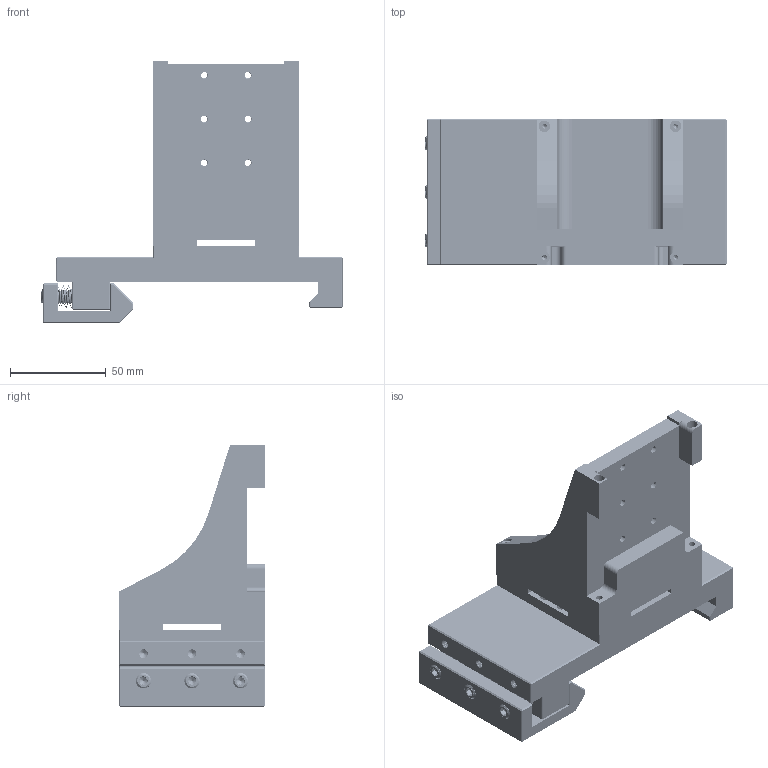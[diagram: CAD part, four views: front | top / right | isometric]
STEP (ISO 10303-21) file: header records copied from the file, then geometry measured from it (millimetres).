
FILE_DESCRIPTION((''),'2;1');
FILE_NAME('OPH95-LM3_ASM','2026-03-21T14:31:52',('R&D'),(''),'CREO PARAMETRIC BY PTC INC, 2021063','CREO PARAMETRIC BY PTC INC, 2021063','');
FILE_SCHEMA(('CONFIG_CONTROL_DESIGN'));
Products named in the file (9): M1_5X5_HS; OPH95-LM1-A5; OPH95-LM1-A1; WASTER_9X12X7; OPH95-LM1-A22; AXLE_3X6; ISO14579-M3X10-8_8; OPH95-LM3-A2; OPH95-LM3_ASM
Assembly tree (16 placements, depth 2):
  OPH95-LM3_ASM
    M1_5X5_HS
    OPH95-LM1-A5
    OPH95-LM1-A1
    WASTER_9X12X7  x3
    OPH95-LM1-A22  x3
    AXLE_3X6  x4
    ISO14579-M3X10-8_8  x2
    OPH95-LM3-A2
Bounding box: 157.41 x 76.2 x 137.29 mm (x, y, z)
Volume: 402022.5 mm3; surface area: 105212.4 mm2
Topology: 13 solids, 13 shells, 1877 faces, 5316 edges, 3388 vertices
Faces by surface type: cylinder 1252, bspline 331, plane 202, cone 76, torus 16
Entity records: 124592 total; most frequent: CARTESIAN_POINT 91383, ORIENTED_EDGE 8268, DIRECTION 4593, EDGE_CURVE 4134, VERTEX_POINT 2666, B_SPLINE_CURVE_WITH_KNOTS 2240, EDGE_LOOP 1582, VECTOR 1561
